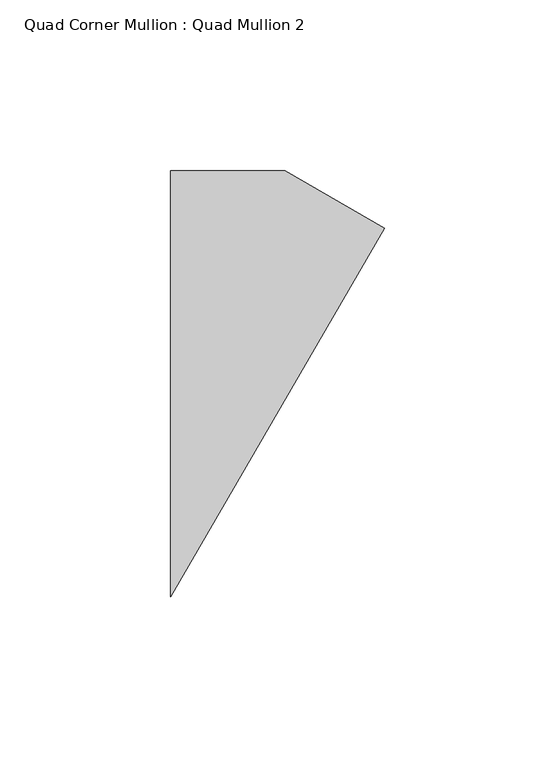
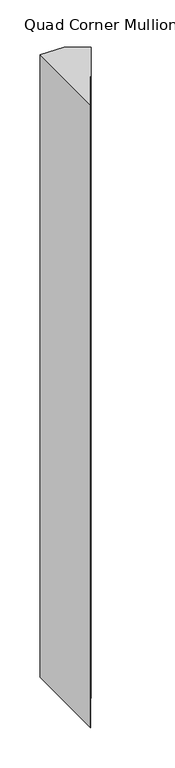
"""IFC4 building model written with IfcOpenShell, lengths in millimetres: member geometry, Quad Corner Mullion : Quad Mullion 2."""

import ifcopenshell
import ifcopenshell.guid

model = None  # the IFC model being written
_history = None  # IfcOwnerHistory: only IFC2X3 demands one
_inside = {}  # id of a spatial element -> (the spatial element, [elements in it])
_under = {}  # id of a project, library or spatial element -> (it, [spatial elements below it])
_declared = {}  # id of a project -> (the project, [libraries it declares])
_typed = {}  # id of a type object -> (the type object, [elements of that type])
_made_of = {}  # id of a material, layer set ... -> (it, [elements and type objects made of it])


def new_model(schema):
    """Start an empty IFC model of exactly this schema.

    Asked for "IFC4X3", IfcOpenShell would pick the latest addendum, in which some entities
    have other attributes; the version numbers below select the first issue.
    IFC2X3 requires an IfcOwnerHistory on every rooted entity: one is made here for all.
    """
    global model, _history
    if schema == "IFC4X3":
        model = ifcopenshell.file(schema_version=(4, 3, 0, 0))
    else:
        model = ifcopenshell.file(schema=schema)
    _inside.clear()
    _under.clear()
    _declared.clear()
    _typed.clear()
    _made_of.clear()
    _history = None
    if model.schema == "IFC2X3":
        org = make("IfcOrganization", Name="unknown")
        user = make(
            "IfcPersonAndOrganization",
            ThePerson=make("IfcPerson", FamilyName="unknown"),
            TheOrganization=org,
        )
        app = make(
            "IfcApplication",
            ApplicationDeveloper=org,
            Version="unknown",
            ApplicationFullName="unknown",
            ApplicationIdentifier="unknown",
        )
        _history = make(
            "IfcOwnerHistory",
            OwningUser=user,
            OwningApplication=app,
            ChangeAction="ADDED",
            CreationDate=0,
        )
    return model


def make(cls, **values):
    """One entity of the class cls with the attributes given. An attribute that is None is left unset."""
    return model.create_entity(
        cls, **{name: value for name, value in values.items() if value is not None}
    )


def rooted(cls, **values):
    """An entity with a GlobalId (a new one), such as an element, a storey or a relation."""
    return make(cls, GlobalId=ifcopenshell.guid.new(), OwnerHistory=_history, **values)


def si_unit(unit_type, name, prefix=None):
    """IfcSIUnit, for example si_unit("LENGTHUNIT", "METRE", prefix="MILLI")."""
    return make("IfcSIUnit", UnitType=unit_type, Prefix=prefix, Name=name)


def assignment(units):
    """IfcUnitAssignment: the units of a project."""
    return None if units is None else make("IfcUnitAssignment", Units=units)


def point(xyz):
    """IfcCartesianPoint."""
    return None if xyz is None else make("IfcCartesianPoint", Coordinates=xyz)


def direction(xyz):
    """IfcDirection."""
    return None if xyz is None else make("IfcDirection", DirectionRatios=xyz)


def frame(location, z_axis=None, x_axis=None):
    """IfcAxis2Placement3D, a coordinate frame: its origin and axes. An axis left out is left unset."""
    return make(
        "IfcAxis2Placement3D",
        Location=point(location),
        Axis=direction(z_axis),
        RefDirection=direction(x_axis),
    )


def origin():
    """The frame at (0, 0, 0) with its axes left unset."""
    return frame((0.0, 0.0, 0.0))


def place(relative_to, where):
    """IfcLocalPlacement: puts the frame where relative to a parent placement (None: the world)."""
    return make(
        "IfcLocalPlacement", PlacementRelTo=relative_to, RelativePlacement=where
    )


def context(
    kind, dimensions, precision=None, world=None, true_north=None, identifier=None
):
    """IfcGeometricRepresentationContext, for example the 3D "Model" context."""
    return make(
        "IfcGeometricRepresentationContext",
        ContextIdentifier=identifier,
        ContextType=kind,
        CoordinateSpaceDimension=dimensions,
        Precision=precision,
        WorldCoordinateSystem=world,
        TrueNorth=true_north,
    )


def project(units=None, contexts=None):
    """IfcProject with its units and contexts."""
    return rooted(
        "IfcProject",
        Name="project",
        RepresentationContexts=contexts,
        UnitsInContext=assignment(units),
    )


def spatial(cls, under=None, at=None, **own):
    """A site, building, storey or space (cls), placed at a placement, below another one or the project."""
    s = rooted(cls, ObjectPlacement=at, **own)
    if under is not None:
        _under.setdefault(under.id(), (under, []))[1].append(s)
    return s


def polyline(points):
    """IfcPolyline through the points."""
    return make("IfcPolyline", Points=[point(p) for p in points])


def outline(outer, holes=None, kind="AREA"):
    """IfcArbitraryClosedProfileDef: a profile drawn as a closed curve; with holes, ...WithVoids."""
    if holes is None:
        return make("IfcArbitraryClosedProfileDef", ProfileType=kind, OuterCurve=outer)
    return make(
        "IfcArbitraryProfileDefWithVoids",
        ProfileType=kind,
        OuterCurve=outer,
        InnerCurves=holes,
    )


def extrude(swept, where, along, depth):
    """IfcExtrudedAreaSolid: the profile swept, set in the frame where, extruded along a direction by depth."""
    return make(
        "IfcExtrudedAreaSolid",
        SweptArea=swept,
        Position=where,
        ExtrudedDirection=direction(along),
        Depth=depth,
    )


def shape(context_of_items, identifier, shape_type, items):
    """IfcShapeRepresentation: the items that make up one representation, for example the "Body"."""
    return make(
        "IfcShapeRepresentation",
        ContextOfItems=context_of_items,
        RepresentationIdentifier=identifier,
        RepresentationType=shape_type,
        Items=items,
    )


def source(mapping_origin, context_of_items, identifier, shape_type, items):
    """IfcRepresentationMap: a shape defined once, which mapped items show again and again."""
    return make(
        "IfcRepresentationMap",
        MappingOrigin=mapping_origin,
        MappedRepresentation=shape(context_of_items, identifier, shape_type, items),
    )


def transform(
    local_origin,
    x_axis=None,
    y_axis=None,
    z_axis=None,
    scale=None,
    scale2=None,
    scale3=None,
    uniform=True,
):
    """IfcCartesianTransformationOperator3D, or its non-uniform kind. x_axis, y_axis, z_axis: its Axis1, 2, 3."""
    if uniform:
        return make(
            "IfcCartesianTransformationOperator3D",
            Axis1=direction(x_axis),
            Axis2=direction(y_axis),
            LocalOrigin=point(local_origin),
            Scale=scale,
            Axis3=direction(z_axis),
        )
    return make(
        "IfcCartesianTransformationOperator3DnonUniform",
        Axis1=direction(x_axis),
        Axis2=direction(y_axis),
        LocalOrigin=point(local_origin),
        Scale=scale,
        Axis3=direction(z_axis),
        Scale2=scale2,
        Scale3=scale3,
    )


def mapped(mapping_source, mapping_target):
    """IfcMappedItem: shows the shape of a source again, moved by a transform."""
    return make(
        "IfcMappedItem", MappingSource=mapping_source, MappingTarget=mapping_target
    )


def made_of(thing, what):
    """Note that an element or type object is made of a material, layer set ...; save() writes the relation."""
    if what is not None:
        _made_of.setdefault(what.id(), (what, []))[1].append(thing)
    return thing


def element(
    cls,
    number,
    at=None,
    inside=None,
    cuts=None,
    type_object=None,
    material=None,
    context=None,
    identifier="Body",
    shape_type=None,
    held_by="IfcProductDefinitionShape",
    body=None,
    shapes=None,
    **own,
):
    """One element of the class cls, such as IfcWall. Its Tag is "e" and its number.

    at: its placement. inside: the storey or other place that contains it. cuts: it is an
    opening in that element (IfcRelVoidsElement). A single representation is given by context,
    identifier, shape_type and body (its items); several are given by shapes. held_by: the class
    of the entity that holds the representations. save() writes the other relations.
    """
    e = rooted(cls, Tag="e%d" % number, ObjectPlacement=at, **own)
    if body is not None:
        shapes = [shape(context, identifier, shape_type, body)]
    if shapes is not None:
        e.Representation = make(held_by, Representations=shapes)
    if inside is not None:
        _inside.setdefault(inside.id(), (inside, []))[1].append(e)
    if cuts is not None:
        rooted(
            "IfcRelVoidsElement", RelatingBuildingElement=cuts, RelatedOpeningElement=e
        )
    if type_object is not None:
        _typed.setdefault(type_object.id(), (type_object, []))[1].append(e)
    return made_of(e, material)


def aggregate(whole, parts):
    """IfcRelAggregates: a whole, such as a stair, and the parts it consists of."""
    return rooted("IfcRelAggregates", RelatingObject=whole, RelatedObjects=parts)


def save(model, path):
    """Write the relations noted so far, then the file.

    IfcRelAggregates (storeys below a building ...), IfcRelContainedInSpatialStructure (elements
    in a storey), IfcRelDefinesByType, IfcRelAssociatesMaterial and IfcRelDeclares: one each for
    every whole, place, type object, material and project.
    """
    for whole, parts in _under.values():
        aggregate(whole, parts)
    for where, things in _inside.values():
        rooted(
            "IfcRelContainedInSpatialStructure",
            RelatedElements=things,
            RelatingStructure=where,
        )
    for kind, things in _typed.values():
        rooted("IfcRelDefinesByType", RelatedObjects=things, RelatingType=kind)
    for what, things in _made_of.values():
        rooted("IfcRelAssociatesMaterial", RelatedObjects=things, RelatingMaterial=what)
    for by, libraries in _declared.values():
        rooted("IfcRelDeclares", RelatingContext=by, RelatedDefinitions=libraries)
    model.write(path)


def quad_corner_mullion_quad_mullion_2_85191807(model_context):
    return source(origin(), model_context, "Body", "SweptSolid", [
        extrude(outline(polyline([(45.9759722, 45.5661659), (-16.8468245, -62.5), (-16.8468245, 62.5), (16.8468245, 62.5), (45.9759722, 45.5661659)])), frame((0.0, 0.0, -940.0), z_axis=(0.0, 0.0, 1.0), x_axis=(1.0, 0.0, 0.0)), (0.0, 0.0, 1.0), 940.0),
    ])


if __name__ == "__main__":
    model = new_model("IFC4")
    model_context = context("Model", 3, world=origin())
    ifc_project = project(units=[si_unit("LENGTHUNIT", "METRE", prefix="MILLI")], contexts=[model_context])
    site = spatial("IfcSite", under=ifc_project)
    building = spatial("IfcBuilding", under=site)
    placement = place(None, origin())
    quad_corner_mullion_quad_mullion_2_shape = quad_corner_mullion_quad_mullion_2_85191807(model_context)
    element("IfcMember", 1, ObjectType="Quad Corner Mullion : Quad Mullion 2", at=placement, inside=building, context=model_context, shape_type="MappedRepresentation", body=[
        mapped(quad_corner_mullion_quad_mullion_2_shape, transform((0.0, 0.0, 0.0), x_axis=(1.0, 0.0, 0.0), y_axis=(0.0, 1.0, 0.0), z_axis=(0.0, 0.0, 1.0))),
    ])
    save(model, "model.ifc")
